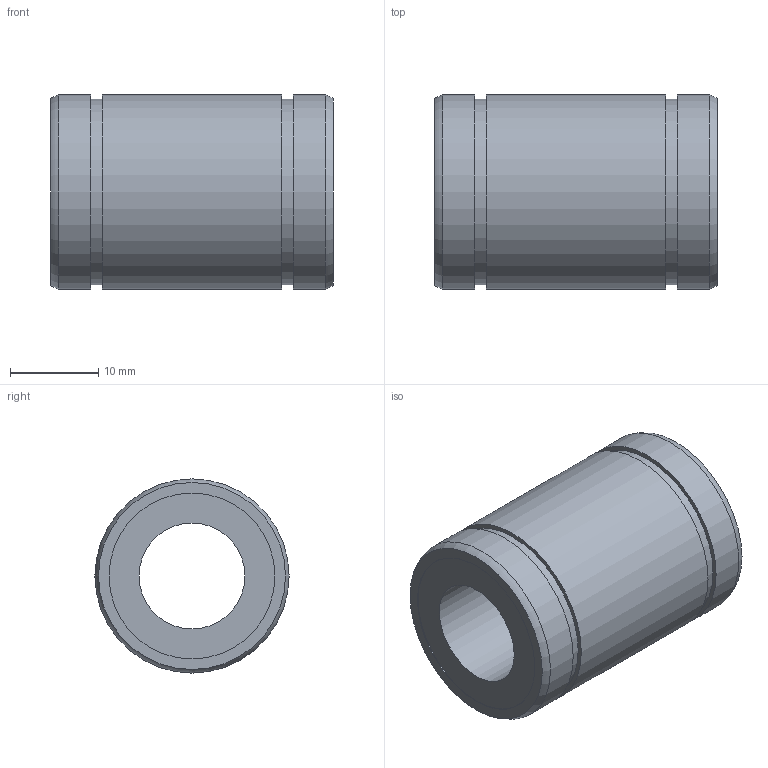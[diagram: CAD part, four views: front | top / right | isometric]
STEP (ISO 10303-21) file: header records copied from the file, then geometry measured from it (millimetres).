
FILE_DESCRIPTION((''),'2;1');
FILE_NAME('D:\製品 (図面)\カタログ用3D\リニアベアリング関連\STEP形式\LE\LE12.stp','2010-06-03T09:04:53',('Tsuchiya'),(''),'Autodesk Inventor 10','Autodesk Inventor 10','');
FILE_SCHEMA(('AUTOMOTIVE_DESIGN { 1 0 10303 214 1 1 1 1 }'));
Length unit declared in the file: millimetre
Products named in the file (1): LE12
Bounding box: 32 x 22 x 22 mm (x, y, z)
Volume: 8402.3 mm3; surface area: 4038.4 mm2
Topology: 1 solids, 1 shells, 18 faces, 28 edges, 18 vertices
Faces by surface type: plane 8, cylinder 8, torus 2
Full cylindrical faces by diameter (mm): 12 x1, 18.8 x2, 21 x2, 22 x3
Entity records: 391 total; most frequent: DIRECTION 74, CARTESIAN_POINT 55, AXIS2_PLACEMENT_3D 37, ORIENTED_EDGE 36, EDGE_LOOP 36, VERTEX_POINT 18, CIRCLE 18, EDGE_CURVE 18
